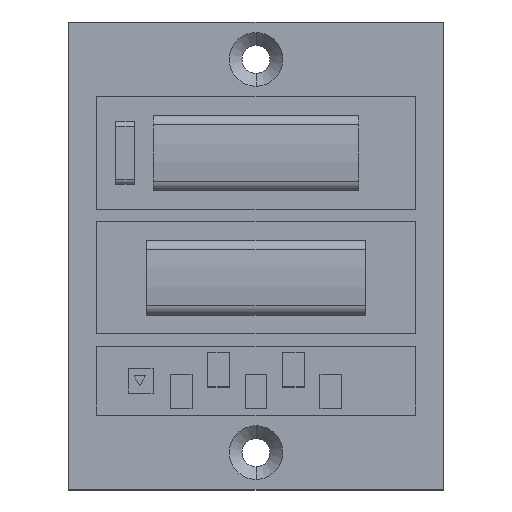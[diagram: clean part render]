
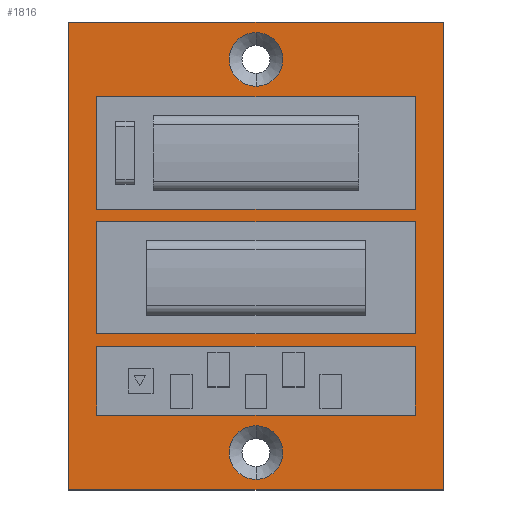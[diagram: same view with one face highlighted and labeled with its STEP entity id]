
A CAD part, top view. The second image highlights one B-rep face of the part: STEP entity #1816.
In plain terms, the highlighted planar face has unit normal (0, 0, 1).
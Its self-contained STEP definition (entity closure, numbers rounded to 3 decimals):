
#89=DIRECTION('',(0.,-1.,0.));
#90=VECTOR('',#89,75.);
#91=CARTESIAN_POINT('',(-30.,37.5,3.));
#92=LINE('',#91,#90);
#93=DIRECTION('',(-1.,0.,0.));
#94=VECTOR('',#93,60.);
#95=CARTESIAN_POINT('',(30.,37.5,3.));
#96=LINE('',#95,#94);
#97=DIRECTION('',(0.,1.,0.));
#98=VECTOR('',#97,75.);
#99=CARTESIAN_POINT('',(30.,-37.5,3.));
#100=LINE('',#99,#98);
#101=DIRECTION('',(1.,0.,0.));
#102=VECTOR('',#101,60.);
#103=CARTESIAN_POINT('',(-30.,-37.5,3.));
#104=LINE('',#103,#102);
#105=DIRECTION('',(1.,0.,0.));
#106=VECTOR('',#105,51.);
#107=CARTESIAN_POINT('',(-25.5,7.5,3.));
#108=LINE('',#107,#106);
#109=DIRECTION('',(0.,1.,0.));
#110=VECTOR('',#109,18.);
#111=CARTESIAN_POINT('',(25.5,7.5,3.));
#112=LINE('',#111,#110);
#113=DIRECTION('',(-1.,0.,0.));
#114=VECTOR('',#113,51.);
#115=CARTESIAN_POINT('',(25.5,25.5,3.));
#116=LINE('',#115,#114);
#117=DIRECTION('',(0.,-1.,0.));
#118=VECTOR('',#117,18.);
#119=CARTESIAN_POINT('',(-25.5,25.5,3.));
#120=LINE('',#119,#118);
#121=DIRECTION('',(0.,-1.,0.));
#122=VECTOR('',#121,18.);
#123=CARTESIAN_POINT('',(-25.5,5.5,3.));
#124=LINE('',#123,#122);
#125=DIRECTION('',(1.,0.,0.));
#126=VECTOR('',#125,51.);
#127=CARTESIAN_POINT('',(-25.5,-12.5,3.));
#128=LINE('',#127,#126);
#129=DIRECTION('',(0.,1.,0.));
#130=VECTOR('',#129,18.);
#131=CARTESIAN_POINT('',(25.5,-12.5,3.));
#132=LINE('',#131,#130);
#133=DIRECTION('',(-1.,0.,0.));
#134=VECTOR('',#133,51.);
#135=CARTESIAN_POINT('',(25.5,5.5,3.));
#136=LINE('',#135,#134);
#137=DIRECTION('',(0.,-1.,0.));
#138=VECTOR('',#137,11.);
#139=CARTESIAN_POINT('',(-25.5,-14.5,3.));
#140=LINE('',#139,#138);
#141=DIRECTION('',(1.,0.,0.));
#142=VECTOR('',#141,51.);
#143=CARTESIAN_POINT('',(-25.5,-25.5,3.));
#144=LINE('',#143,#142);
#145=DIRECTION('',(0.,1.,0.));
#146=VECTOR('',#145,11.);
#147=CARTESIAN_POINT('',(25.5,-25.5,3.));
#148=LINE('',#147,#146);
#149=DIRECTION('',(-1.,0.,0.));
#150=VECTOR('',#149,51.);
#151=CARTESIAN_POINT('',(25.5,-14.5,3.));
#152=LINE('',#151,#150);
#153=CARTESIAN_POINT('',(0.,31.5,3.));
#154=DIRECTION('',(0.,0.,1.));
#155=DIRECTION('',(0.,1.,0.));
#156=AXIS2_PLACEMENT_3D('',#153,#154,#155);
#158=CARTESIAN_POINT('',(0.,31.5,3.));
#159=DIRECTION('',(0.,0.,1.));
#160=DIRECTION('',(0.,-1.,0.));
#161=AXIS2_PLACEMENT_3D('',#158,#159,#160);
#163=CARTESIAN_POINT('',(0.,-31.5,3.));
#164=DIRECTION('',(0.,0.,-1.));
#165=DIRECTION('',(0.,-1.,0.));
#166=AXIS2_PLACEMENT_3D('',#163,#164,#165);
#168=CARTESIAN_POINT('',(0.,-31.5,3.));
#169=DIRECTION('',(0.,0.,-1.));
#170=DIRECTION('',(0.,1.,0.));
#171=AXIS2_PLACEMENT_3D('',#168,#169,#170);
#1281=CARTESIAN_POINT('',(-30.,37.5,3.));
#1282=CARTESIAN_POINT('',(-30.,-37.5,3.));
#1283=VERTEX_POINT('',#1281);
#1284=VERTEX_POINT('',#1282);
#1285=CARTESIAN_POINT('',(30.,-37.5,3.));
#1286=VERTEX_POINT('',#1285);
#1287=CARTESIAN_POINT('',(30.,37.5,3.));
#1288=VERTEX_POINT('',#1287);
#1345=CARTESIAN_POINT('',(-25.5,7.5,3.));
#1346=CARTESIAN_POINT('',(25.5,7.5,3.));
#1347=VERTEX_POINT('',#1345);
#1348=VERTEX_POINT('',#1346);
#1349=CARTESIAN_POINT('',(25.5,25.5,3.));
#1350=VERTEX_POINT('',#1349);
#1351=CARTESIAN_POINT('',(-25.5,25.5,3.));
#1352=VERTEX_POINT('',#1351);
#1461=CARTESIAN_POINT('',(0.,35.8,3.));
#1462=CARTESIAN_POINT('',(0.,27.2,3.));
#1463=VERTEX_POINT('',#1461);
#1464=VERTEX_POINT('',#1462);
#1545=CARTESIAN_POINT('',(-25.5,5.5,3.));
#1546=CARTESIAN_POINT('',(-25.5,-12.5,3.));
#1547=VERTEX_POINT('',#1545);
#1548=VERTEX_POINT('',#1546);
#1549=CARTESIAN_POINT('',(25.5,-12.5,3.));
#1550=VERTEX_POINT('',#1549);
#1551=CARTESIAN_POINT('',(25.5,5.5,3.));
#1552=VERTEX_POINT('',#1551);
#1561=CARTESIAN_POINT('',(-25.5,-14.5,3.));
#1562=CARTESIAN_POINT('',(-25.5,-25.5,3.));
#1563=VERTEX_POINT('',#1561);
#1564=VERTEX_POINT('',#1562);
#1565=CARTESIAN_POINT('',(25.5,-25.5,3.));
#1566=VERTEX_POINT('',#1565);
#1567=CARTESIAN_POINT('',(25.5,-14.5,3.));
#1568=VERTEX_POINT('',#1567);
#1631=CARTESIAN_POINT('',(0.,-35.8,3.));
#1632=VERTEX_POINT('',#1631);
#1635=CARTESIAN_POINT('',(0.,-27.2,3.));
#1636=VERTEX_POINT('',#1635);
#1763=CARTESIAN_POINT('',(0.,0.,3.));
#1764=DIRECTION('',(0.,0.,1.));
#1765=DIRECTION('',(1.,0.,0.));
#1766=AXIS2_PLACEMENT_3D('',#1763,#1764,#1765);
#1767=PLANE('',#1766);
#1768=ORIENTED_EDGE('',*,*,#1715,.F.);
#1769=ORIENTED_EDGE('',*,*,#1730,.F.);
#1770=ORIENTED_EDGE('',*,*,#1744,.F.);
#1771=ORIENTED_EDGE('',*,*,#1757,.F.);
#1772=EDGE_LOOP('',(#1768,#1769,#1770,#1771));
#1773=FACE_OUTER_BOUND('',#1772,.F.);
#1775=ORIENTED_EDGE('',*,*,#1774,.T.);
#1777=ORIENTED_EDGE('',*,*,#1776,.T.);
#1779=ORIENTED_EDGE('',*,*,#1778,.T.);
#1781=ORIENTED_EDGE('',*,*,#1780,.T.);
#1782=EDGE_LOOP('',(#1775,#1777,#1779,#1781));
#1783=FACE_BOUND('',#1782,.F.);
#1785=ORIENTED_EDGE('',*,*,#1784,.T.);
#1787=ORIENTED_EDGE('',*,*,#1786,.T.);
#1789=ORIENTED_EDGE('',*,*,#1788,.T.);
#1791=ORIENTED_EDGE('',*,*,#1790,.T.);
#1792=EDGE_LOOP('',(#1785,#1787,#1789,#1791));
#1793=FACE_BOUND('',#1792,.F.);
#1795=ORIENTED_EDGE('',*,*,#1794,.T.);
#1797=ORIENTED_EDGE('',*,*,#1796,.T.);
#1799=ORIENTED_EDGE('',*,*,#1798,.T.);
#1801=ORIENTED_EDGE('',*,*,#1800,.T.);
#1802=EDGE_LOOP('',(#1795,#1797,#1799,#1801));
#1803=FACE_BOUND('',#1802,.F.);
#1805=ORIENTED_EDGE('',*,*,#1804,.T.);
#1807=ORIENTED_EDGE('',*,*,#1806,.T.);
#1808=EDGE_LOOP('',(#1805,#1807));
#1809=FACE_BOUND('',#1808,.F.);
#1811=ORIENTED_EDGE('',*,*,#1810,.F.);
#1813=ORIENTED_EDGE('',*,*,#1812,.F.);
#1814=EDGE_LOOP('',(#1811,#1813));
#1815=FACE_BOUND('',#1814,.F.);
#1816=ADVANCED_FACE('',(#1773,#1783,#1793,#1803,#1809,#1815),#1767,.T.);
#157=CIRCLE('',#156,4.3);
#162=CIRCLE('',#161,4.3);
#167=CIRCLE('',#166,4.3);
#172=CIRCLE('',#171,4.3);
#1715=EDGE_CURVE('',#1283,#1284,#92,.T.);
#1730=EDGE_CURVE('',#1288,#1283,#96,.T.);
#1744=EDGE_CURVE('',#1286,#1288,#100,.T.);
#1757=EDGE_CURVE('',#1284,#1286,#104,.T.);
#1774=EDGE_CURVE('',#1347,#1348,#108,.T.);
#1776=EDGE_CURVE('',#1348,#1350,#112,.T.);
#1778=EDGE_CURVE('',#1350,#1352,#116,.T.);
#1780=EDGE_CURVE('',#1352,#1347,#120,.T.);
#1784=EDGE_CURVE('',#1547,#1548,#124,.T.);
#1786=EDGE_CURVE('',#1548,#1550,#128,.T.);
#1788=EDGE_CURVE('',#1550,#1552,#132,.T.);
#1790=EDGE_CURVE('',#1552,#1547,#136,.T.);
#1794=EDGE_CURVE('',#1563,#1564,#140,.T.);
#1796=EDGE_CURVE('',#1564,#1566,#144,.T.);
#1798=EDGE_CURVE('',#1566,#1568,#148,.T.);
#1800=EDGE_CURVE('',#1568,#1563,#152,.T.);
#1804=EDGE_CURVE('',#1463,#1464,#157,.T.);
#1806=EDGE_CURVE('',#1464,#1463,#162,.T.);
#1810=EDGE_CURVE('',#1632,#1636,#167,.T.);
#1812=EDGE_CURVE('',#1636,#1632,#172,.T.);
